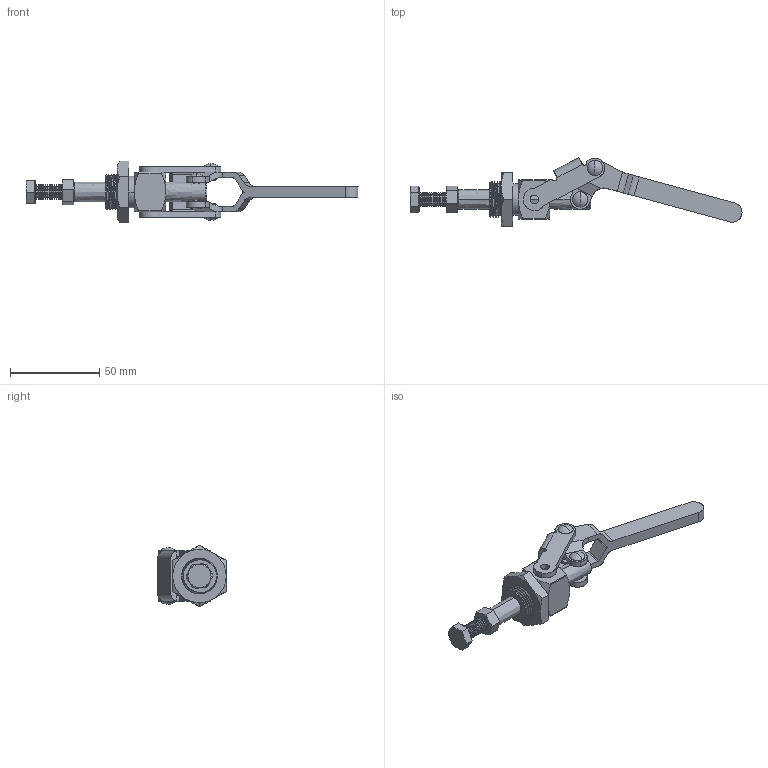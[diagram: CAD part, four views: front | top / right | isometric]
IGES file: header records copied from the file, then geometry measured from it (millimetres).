
Start section: SolidWorks IGES file using analytic representation for surfaces
Global section: file name: D:\GH Files\GH-SW-FILES\GH3\36204\GH-36204M.IGS; native system: SolidWorks 2006 by SolidWorks Corporation; preprocessor: SolidWorks 2006 by SolidWorks Corporation; author: Administrator; date: 060824.114514; units: millimetre
Bounding box: 186.47 x 38.4 x 34.64 mm (x, y, z)
Surface area: 23580.1 mm2 (no closed solid volume)
Topology: 0 solids, 0 shells, 514 faces, 5822 edges, 5810 vertices
Faces by surface type: revolution 405, bspline 109
